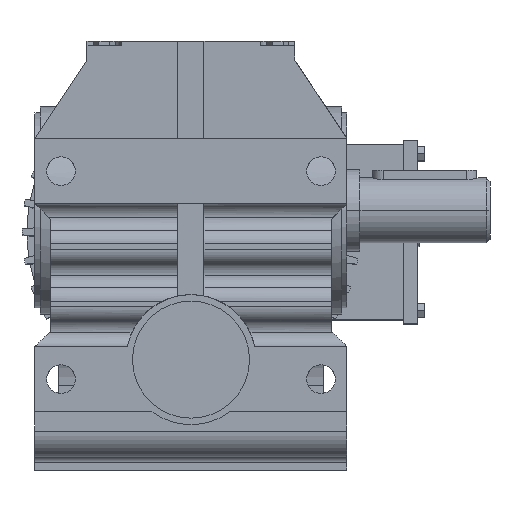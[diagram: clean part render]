
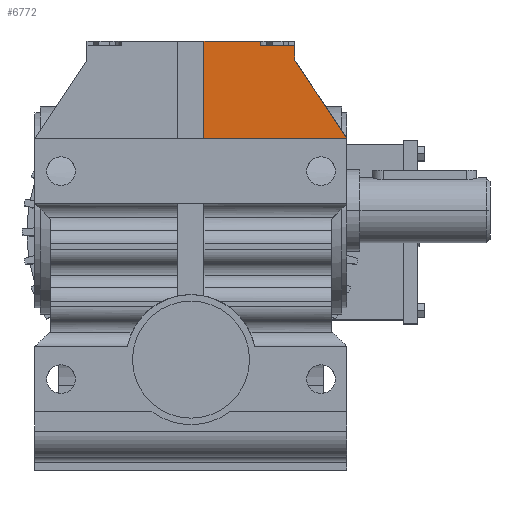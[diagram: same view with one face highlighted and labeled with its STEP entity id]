
A CAD part, top view. The second image highlights one B-rep face of the part: STEP entity #6772.
In plain terms, the highlighted planar face has unit normal (0, 0, 1).
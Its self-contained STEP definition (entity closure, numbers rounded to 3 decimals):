
#401 = PLANE('',#402);
#402 = AXIS2_PLACEMENT_3D('',#403,#404,#405);
#403 = CARTESIAN_POINT('',(40.,73.,-3.));
#404 = DIRECTION('',(1.,0.,0.));
#405 = DIRECTION('',(0.,0.,-1.));
#2324 = VERTEX_POINT('',#2325);
#2325 = CARTESIAN_POINT('',(40.,71.182,159.5));
#2339 = PLANE('',#2340);
#2340 = AXIS2_PLACEMENT_3D('',#2341,#2342,#2343);
#2341 = CARTESIAN_POINT('',(33.349,71.182,
    152.849));
#2342 = DIRECTION('',(0.,1.,0.));
#2343 = DIRECTION('',(0.,0.,1.));
#2351 = EDGE_CURVE('',#2324,#2352,#2354,.T.);
#2352 = VERTEX_POINT('',#2353);
#2353 = CARTESIAN_POINT('',(40.,65.727,159.5));
#2354 = SURFACE_CURVE('',#2355,(#2359,#2366),.PCURVE_S1.);
#2355 = LINE('',#2356,#2357);
#2356 = CARTESIAN_POINT('',(40.,73.,159.5));
#2357 = VECTOR('',#2358,1.);
#2358 = DIRECTION('',(0.,-1.,0.));
#2359 = PCURVE('',#401,#2360);
#2360 = DEFINITIONAL_REPRESENTATION('',(#2361),#2365);
#2361 = LINE('',#2362,#2363);
#2362 = CARTESIAN_POINT('',(-162.5,0.));
#2363 = VECTOR('',#2364,1.);
#2364 = DIRECTION('',(0.,-1.));
#2365 = ( GEOMETRIC_REPRESENTATION_CONTEXT(2) 
PARAMETRIC_REPRESENTATION_CONTEXT() REPRESENTATION_CONTEXT('2D SPACE',''
  ) );
#2366 = PCURVE('',#2367,#2372);
#2367 = PLANE('',#2368);
#2368 = AXIS2_PLACEMENT_3D('',#2369,#2370,#2371);
#2369 = CARTESIAN_POINT('',(60.,73.,159.5));
#2370 = DIRECTION('',(0.,0.,-1.));
#2371 = DIRECTION('',(-1.,0.,0.));
#2372 = DEFINITIONAL_REPRESENTATION('',(#2373),#2377);
#2373 = LINE('',#2374,#2375);
#2374 = CARTESIAN_POINT('',(20.,0.));
#2375 = VECTOR('',#2376,1.);
#2376 = DIRECTION('',(0.,-1.));
#2377 = ( GEOMETRIC_REPRESENTATION_CONTEXT(2) 
PARAMETRIC_REPRESENTATION_CONTEXT() REPRESENTATION_CONTEXT('2D SPACE',''
  ) );
#2395 = PLANE('',#2396);
#2396 = AXIS2_PLACEMENT_3D('',#2397,#2398,#2399);
#2397 = CARTESIAN_POINT('',(40.,65.727,-3.));
#2398 = DIRECTION('',(0.834,0.552,0.));
#2399 = DIRECTION('',(-0.552,0.834,0.));
#4237 = VERTEX_POINT('',#4238);
#4238 = CARTESIAN_POINT('',(26.698,71.182,159.5));
#4252 = PLANE('',#4253);
#4253 = AXIS2_PLACEMENT_3D('',#4254,#4255,#4256);
#4254 = CARTESIAN_POINT('',(26.698,71.182,
    152.849));
#4255 = DIRECTION('',(-1.,0.,0.));
#4256 = DIRECTION('',(0.,0.,1.));
#4264 = EDGE_CURVE('',#4237,#2324,#4265,.T.);
#4265 = SURFACE_CURVE('',#4266,(#4270,#4277),.PCURVE_S1.);
#4266 = LINE('',#4267,#4268);
#4267 = CARTESIAN_POINT('',(40.,71.182,159.5));
#4268 = VECTOR('',#4269,1.);
#4269 = DIRECTION('',(1.,0.,0.));
#4270 = PCURVE('',#2339,#4271);
#4271 = DEFINITIONAL_REPRESENTATION('',(#4272),#4276);
#4272 = LINE('',#4273,#4274);
#4273 = CARTESIAN_POINT('',(6.651,6.651));
#4274 = VECTOR('',#4275,1.);
#4275 = DIRECTION('',(0.,1.));
#4276 = ( GEOMETRIC_REPRESENTATION_CONTEXT(2) 
PARAMETRIC_REPRESENTATION_CONTEXT() REPRESENTATION_CONTEXT('2D SPACE',''
  ) );
#4277 = PCURVE('',#2367,#4278);
#4278 = DEFINITIONAL_REPRESENTATION('',(#4279),#4283);
#4279 = LINE('',#4280,#4281);
#4280 = CARTESIAN_POINT('',(20.,-1.818));
#4281 = VECTOR('',#4282,1.);
#4282 = DIRECTION('',(-1.,0.));
#4283 = ( GEOMETRIC_REPRESENTATION_CONTEXT(2) 
PARAMETRIC_REPRESENTATION_CONTEXT() REPRESENTATION_CONTEXT('2D SPACE',''
  ) );
#4509 = EDGE_CURVE('',#2352,#4510,#4512,.T.);
#4510 = VERTEX_POINT('',#4511);
#4511 = CARTESIAN_POINT('',(60.,35.5,159.5));
#4512 = SURFACE_CURVE('',#4513,(#4517,#4524),.PCURVE_S1.);
#4513 = LINE('',#4514,#4515);
#4514 = CARTESIAN_POINT('',(42.743,61.582,159.5));
#4515 = VECTOR('',#4516,1.);
#4516 = DIRECTION('',(0.552,-0.834,0.));
#4517 = PCURVE('',#2395,#4518);
#4518 = DEFINITIONAL_REPRESENTATION('',(#4519),#4523);
#4519 = LINE('',#4520,#4521);
#4520 = CARTESIAN_POINT('',(-4.971,162.5));
#4521 = VECTOR('',#4522,1.);
#4522 = DIRECTION('',(-1.,0.));
#4523 = ( GEOMETRIC_REPRESENTATION_CONTEXT(2) 
PARAMETRIC_REPRESENTATION_CONTEXT() REPRESENTATION_CONTEXT('2D SPACE',''
  ) );
#4524 = PCURVE('',#2367,#4525);
#4525 = DEFINITIONAL_REPRESENTATION('',(#4526),#4530);
#4526 = LINE('',#4527,#4528);
#4527 = CARTESIAN_POINT('',(17.257,-11.418));
#4528 = VECTOR('',#4529,1.);
#4529 = DIRECTION('',(-0.552,-0.834));
#4530 = ( GEOMETRIC_REPRESENTATION_CONTEXT(2) 
PARAMETRIC_REPRESENTATION_CONTEXT() REPRESENTATION_CONTEXT('2D SPACE',''
  ) );
#6772 = ADVANCED_FACE('',(#6773),#2367,.F.);
#6773 = FACE_BOUND('',#6774,.T.);
#6774 = EDGE_LOOP('',(#6775,#6776,#6799,#6827,#6855,#6881,#6882));
#6775 = ORIENTED_EDGE('',*,*,#4264,.F.);
#6776 = ORIENTED_EDGE('',*,*,#6777,.T.);
#6777 = EDGE_CURVE('',#4237,#6778,#6780,.T.);
#6778 = VERTEX_POINT('',#6779);
#6779 = CARTESIAN_POINT('',(26.698,73.,159.5));
#6780 = SURFACE_CURVE('',#6781,(#6785,#6792),.PCURVE_S1.);
#6781 = LINE('',#6782,#6783);
#6782 = CARTESIAN_POINT('',(26.698,71.182,159.5));
#6783 = VECTOR('',#6784,1.);
#6784 = DIRECTION('',(0.,1.,0.));
#6785 = PCURVE('',#2367,#6786);
#6786 = DEFINITIONAL_REPRESENTATION('',(#6787),#6791);
#6787 = LINE('',#6788,#6789);
#6788 = CARTESIAN_POINT('',(33.302,-1.818));
#6789 = VECTOR('',#6790,1.);
#6790 = DIRECTION('',(0.,1.));
#6791 = ( GEOMETRIC_REPRESENTATION_CONTEXT(2) 
PARAMETRIC_REPRESENTATION_CONTEXT() REPRESENTATION_CONTEXT('2D SPACE',''
  ) );
#6792 = PCURVE('',#4252,#6793);
#6793 = DEFINITIONAL_REPRESENTATION('',(#6794),#6798);
#6794 = LINE('',#6795,#6796);
#6795 = CARTESIAN_POINT('',(6.651,0.));
#6796 = VECTOR('',#6797,1.);
#6797 = DIRECTION('',(0.,1.));
#6798 = ( GEOMETRIC_REPRESENTATION_CONTEXT(2) 
PARAMETRIC_REPRESENTATION_CONTEXT() REPRESENTATION_CONTEXT('2D SPACE',''
  ) );
#6799 = ORIENTED_EDGE('',*,*,#6800,.T.);
#6800 = EDGE_CURVE('',#6778,#6801,#6803,.T.);
#6801 = VERTEX_POINT('',#6802);
#6802 = CARTESIAN_POINT('',(5.,73.,159.5));
#6803 = SURFACE_CURVE('',#6804,(#6808,#6815),.PCURVE_S1.);
#6804 = LINE('',#6805,#6806);
#6805 = CARTESIAN_POINT('',(60.,73.,159.5));
#6806 = VECTOR('',#6807,1.);
#6807 = DIRECTION('',(-1.,0.,0.));
#6808 = PCURVE('',#2367,#6809);
#6809 = DEFINITIONAL_REPRESENTATION('',(#6810),#6814);
#6810 = LINE('',#6811,#6812);
#6811 = CARTESIAN_POINT('',(0.,0.));
#6812 = VECTOR('',#6813,1.);
#6813 = DIRECTION('',(1.,0.));
#6814 = ( GEOMETRIC_REPRESENTATION_CONTEXT(2) 
PARAMETRIC_REPRESENTATION_CONTEXT() REPRESENTATION_CONTEXT('2D SPACE',''
  ) );
#6815 = PCURVE('',#6816,#6821);
#6816 = PLANE('',#6817);
#6817 = AXIS2_PLACEMENT_3D('',#6818,#6819,#6820);
#6818 = CARTESIAN_POINT('',(60.,73.,16.5));
#6819 = DIRECTION('',(0.,-1.,0.));
#6820 = DIRECTION('',(0.,0.,-1.));
#6821 = DEFINITIONAL_REPRESENTATION('',(#6822),#6826);
#6822 = LINE('',#6823,#6824);
#6823 = CARTESIAN_POINT('',(-143.,0.));
#6824 = VECTOR('',#6825,1.);
#6825 = DIRECTION('',(0.,-1.));
#6826 = ( GEOMETRIC_REPRESENTATION_CONTEXT(2) 
PARAMETRIC_REPRESENTATION_CONTEXT() REPRESENTATION_CONTEXT('2D SPACE',''
  ) );
#6827 = ORIENTED_EDGE('',*,*,#6828,.F.);
#6828 = EDGE_CURVE('',#6829,#6801,#6831,.T.);
#6829 = VERTEX_POINT('',#6830);
#6830 = CARTESIAN_POINT('',(5.,35.5,159.5));
#6831 = SURFACE_CURVE('',#6832,(#6836,#6843),.PCURVE_S1.);
#6832 = LINE('',#6833,#6834);
#6833 = CARTESIAN_POINT('',(5.,73.,159.5));
#6834 = VECTOR('',#6835,1.);
#6835 = DIRECTION('',(0.,1.,0.));
#6836 = PCURVE('',#2367,#6837);
#6837 = DEFINITIONAL_REPRESENTATION('',(#6838),#6842);
#6838 = LINE('',#6839,#6840);
#6839 = CARTESIAN_POINT('',(55.,0.));
#6840 = VECTOR('',#6841,1.);
#6841 = DIRECTION('',(0.,1.));
#6842 = ( GEOMETRIC_REPRESENTATION_CONTEXT(2) 
PARAMETRIC_REPRESENTATION_CONTEXT() REPRESENTATION_CONTEXT('2D SPACE',''
  ) );
#6843 = PCURVE('',#6844,#6849);
#6844 = PLANE('',#6845);
#6845 = AXIS2_PLACEMENT_3D('',#6846,#6847,#6848);
#6846 = CARTESIAN_POINT('',(5.,-44.5,151.5));
#6847 = DIRECTION('',(-1.,0.,0.));
#6848 = DIRECTION('',(0.,0.,1.));
#6849 = DEFINITIONAL_REPRESENTATION('',(#6850),#6854);
#6850 = LINE('',#6851,#6852);
#6851 = CARTESIAN_POINT('',(8.,117.5));
#6852 = VECTOR('',#6853,1.);
#6853 = DIRECTION('',(0.,1.));
#6854 = ( GEOMETRIC_REPRESENTATION_CONTEXT(2) 
PARAMETRIC_REPRESENTATION_CONTEXT() REPRESENTATION_CONTEXT('2D SPACE',''
  ) );
#6855 = ORIENTED_EDGE('',*,*,#6856,.F.);
#6856 = EDGE_CURVE('',#4510,#6829,#6857,.T.);
#6857 = SURFACE_CURVE('',#6858,(#6862,#6869),.PCURVE_S1.);
#6858 = LINE('',#6859,#6860);
#6859 = CARTESIAN_POINT('',(60.,35.5,159.5));
#6860 = VECTOR('',#6861,1.);
#6861 = DIRECTION('',(-1.,0.,0.));
#6862 = PCURVE('',#2367,#6863);
#6863 = DEFINITIONAL_REPRESENTATION('',(#6864),#6868);
#6864 = LINE('',#6865,#6866);
#6865 = CARTESIAN_POINT('',(0.,-37.5));
#6866 = VECTOR('',#6867,1.);
#6867 = DIRECTION('',(1.,0.));
#6868 = ( GEOMETRIC_REPRESENTATION_CONTEXT(2) 
PARAMETRIC_REPRESENTATION_CONTEXT() REPRESENTATION_CONTEXT('2D SPACE',''
  ) );
#6869 = PCURVE('',#6870,#6875);
#6870 = PLANE('',#6871);
#6871 = AXIS2_PLACEMENT_3D('',#6872,#6873,#6874);
#6872 = CARTESIAN_POINT('',(60.,35.5,163.5));
#6873 = DIRECTION('',(0.,-1.,0.));
#6874 = DIRECTION('',(0.,0.,-1.));
#6875 = DEFINITIONAL_REPRESENTATION('',(#6876),#6880);
#6876 = LINE('',#6877,#6878);
#6877 = CARTESIAN_POINT('',(4.,0.));
#6878 = VECTOR('',#6879,1.);
#6879 = DIRECTION('',(0.,-1.));
#6880 = ( GEOMETRIC_REPRESENTATION_CONTEXT(2) 
PARAMETRIC_REPRESENTATION_CONTEXT() REPRESENTATION_CONTEXT('2D SPACE',''
  ) );
#6881 = ORIENTED_EDGE('',*,*,#4509,.F.);
#6882 = ORIENTED_EDGE('',*,*,#2351,.F.);
